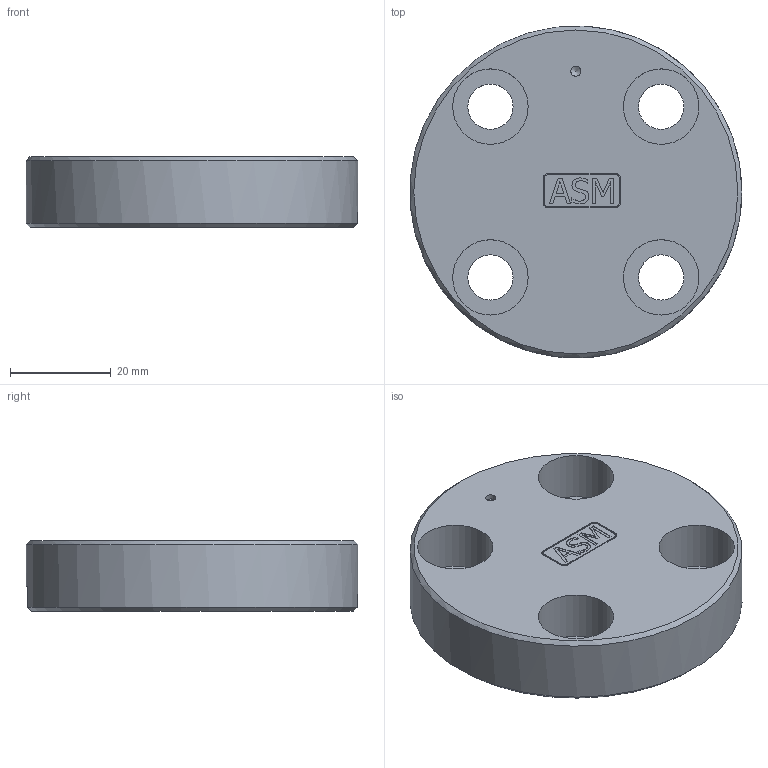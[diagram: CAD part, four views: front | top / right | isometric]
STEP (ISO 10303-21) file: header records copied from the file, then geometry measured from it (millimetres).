
FILE_DESCRIPTION((''),'2;1');
FILE_NAME('K:\Daten\121699_Prmag5Z EX_032_BKunde.stp','2012-03-01T19:10:06',('kamp'),(''),'Autodesk Inventor 2008','Autodesk Inventor 2008','');
FILE_SCHEMA(('AUTOMOTIVE_DESIGN { 1 0 10303 214 1 1 1 1 }'));
Length unit declared in the file: millimetre
Products named in the file (1): Bauteil52
Bounding box: 65.93 x 65.94 x 14 mm (x, y, z)
Volume: 39175.4 mm3; surface area: 11514.5 mm2
Topology: 1 solids, 1 shells, 89 faces, 230 edges, 153 vertices
Faces by surface type: plane 47, bspline 30, cylinder 10, cone 2
Full cylindrical faces by diameter (mm): 66 x1
Entity records: 2983 total; most frequent: CARTESIAN_POINT 849, ORIENTED_EDGE 430, DIRECTION 342, EDGE_CURVE 215, VERTEX_POINT 150, VECTOR 140, LINE 140, EDGE_LOOP 119
